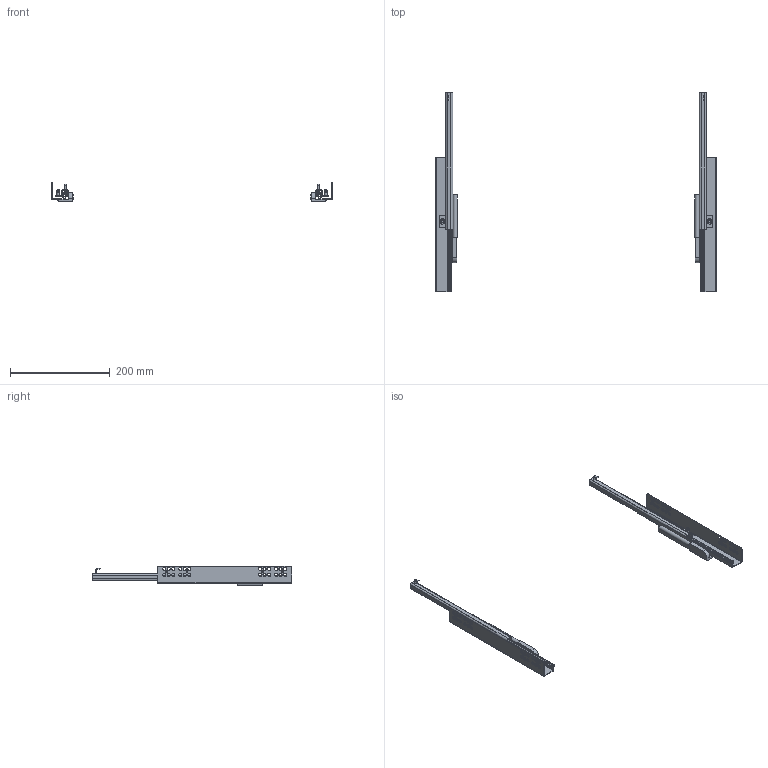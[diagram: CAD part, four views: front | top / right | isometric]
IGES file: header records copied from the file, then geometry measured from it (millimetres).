
Start section: Data from Parasolid IGES Translator 15.0.47, Copyright(c) 2006 Siemens P LM Software. All Rights Reserved.
Global section: file name: 9113476.igs; native system:  By UGS Corp.; preprocessor: XPlus GENERIC/IGES 3.0; author: Noname; organization: Noname; date: 20140121.092749; units: millimetre
Bounding box: 562 x 398.9 x 39.4 mm (x, y, z)
Surface area: 161279.3 mm2 (no closed solid volume)
Topology: 0 solids, 0 shells, 272 faces, 1510 edges, 1382 vertices
Faces by surface type: revolution 144, extrusion 128
